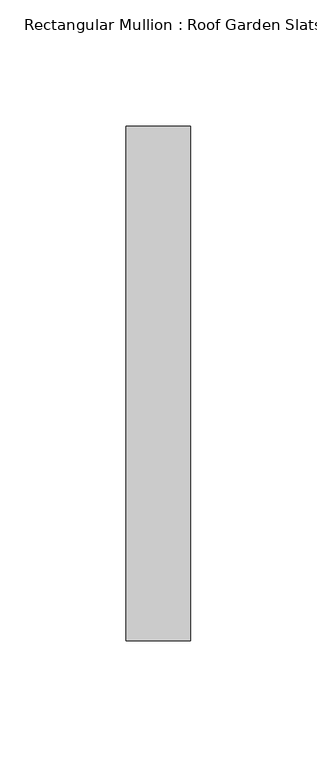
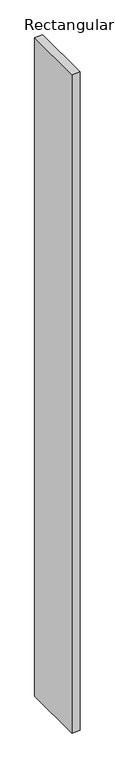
"""IFC4 building model written with IfcOpenShell, lengths in millimetres: member geometry, Rectangular Mullion : Roof Garden Slats."""

from ifc_helpers import new_model, si_unit, frame, origin, place, context, project, spatial, polyline, outline, extrude, source, transform, mapped, element, save


def rectangular_mullion_roof_garden_slats_b7c495e9(model_context):
    return source(origin(), model_context, "Body", "SweptSolid", [
        extrude(outline(polyline([(12.7, 139.7), (12.7, -63.5), (-12.7, -63.5), (-12.7, 139.7), (12.7, 139.7)])), frame((0.0, 0.0, -2195.8955132), z_axis=(0.0, 0.0, 1.0), x_axis=(1.0, 0.0, 0.0)), (0.0, 0.0, 1.0), 2195.8955132),
    ])


if __name__ == "__main__":
    model = new_model("IFC4")
    model_context = context("Model", 3, world=origin())
    ifc_project = project(units=[si_unit("LENGTHUNIT", "METRE", prefix="MILLI")], contexts=[model_context])
    site = spatial("IfcSite", under=ifc_project)
    building = spatial("IfcBuilding", under=site)
    placement = place(None, origin())
    rectangular_mullion_roof_garden_slats_shape = rectangular_mullion_roof_garden_slats_b7c495e9(model_context)
    element("IfcMember", 1, ObjectType="Rectangular Mullion : Roof Garden Slats", at=placement, inside=building, context=model_context, shape_type="MappedRepresentation", body=[
        mapped(rectangular_mullion_roof_garden_slats_shape, transform((0.0, 0.0, 0.0), x_axis=(1.0, 0.0, 0.0), y_axis=(0.0, 1.0, 0.0), z_axis=(0.0, 0.0, 1.0))),
    ])
    save(model, "model.ifc")
